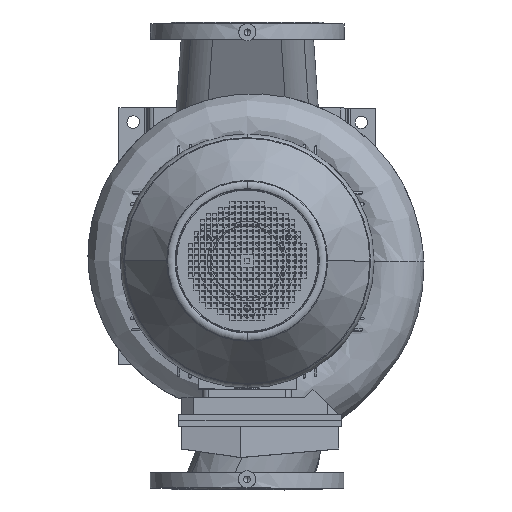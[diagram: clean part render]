
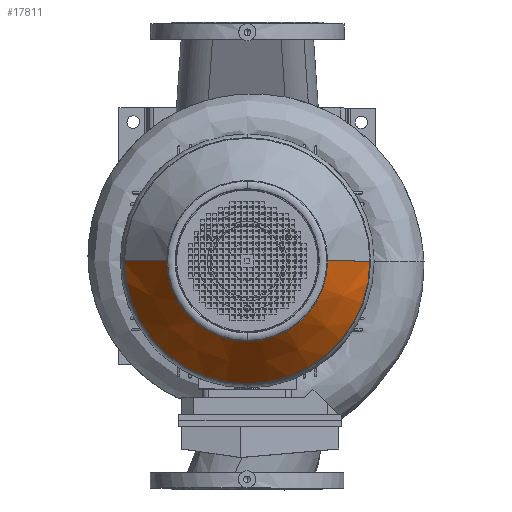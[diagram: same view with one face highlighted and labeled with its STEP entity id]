
A CAD part, top view. The second image highlights one B-rep face of the part: STEP entity #17811.
In plain terms, the highlighted conical face has half-angle 34.804 degrees and reference radius 178.671 mm.
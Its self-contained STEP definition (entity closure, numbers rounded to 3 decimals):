
#17811=ADVANCED_FACE('',(#40277),#40278,.T.);
#20427=EDGE_CURVE('',#44843,#44846,#44847,.T.);
#20429=EDGE_CURVE('',#44849,#44850,#44851,.T.);
#20431=EDGE_CURVE('',#44850,#44853,#44854,.T.);
#20433=EDGE_CURVE('',#44846,#44856,#44857,.T.);
#40277=FACE_OUTER_BOUND('',#85760,.T.);
#40278=CONICAL_SURFACE('',#85761,178.671,0.607);
#44843=VERTEX_POINT('',#90343);
#44846=VERTEX_POINT('',#90347);
#44847=CIRCLE('',#90348,141.0);
#44849=VERTEX_POINT('',#90351);
#44850=VERTEX_POINT('',#90352);
#44851=CIRCLE('',#90353,216.342);
#44853=VERTEX_POINT('',#90356);
#44854=CIRCLE('',#90357,216.342);
#44856=VERTEX_POINT('',#90360);
#44857=CIRCLE('',#90361,141.0);
#85760=EDGE_LOOP('',(#125783,#125784,#125785,#125786,#125787,#125788));
#85761=AXIS2_PLACEMENT_3D('',#125789,#125790,#125791);
#90343=CARTESIAN_POINT('',(228.035,141.0,0.0));
#90347=CARTESIAN_POINT('',(228.035,0.,141.0));
#90348=AXIS2_PLACEMENT_3D('',#138729,#138730,#138731);
#90351=CARTESIAN_POINT('',(119.648,216.342,0.0));
#90352=CARTESIAN_POINT('',(119.648,0.,216.342));
#90353=AXIS2_PLACEMENT_3D('',#138732,#138733,#138734);
#90356=CARTESIAN_POINT('',(119.648,-216.342,0.));
#90357=AXIS2_PLACEMENT_3D('',#138735,#138736,#138737);
#90360=CARTESIAN_POINT('',(228.035,-141.0,0.));
#90361=AXIS2_PLACEMENT_3D('',#138738,#138739,#138740);
#125783=ORIENTED_EDGE('',*,*,#145750,.F.);
#125784=ORIENTED_EDGE('',*,*,#20429,.T.);
#125785=ORIENTED_EDGE('',*,*,#20431,.T.);
#125786=ORIENTED_EDGE('',*,*,#145751,.F.);
#125787=ORIENTED_EDGE('',*,*,#20433,.F.);
#125788=ORIENTED_EDGE('',*,*,#20427,.F.);
#125789=CARTESIAN_POINT('',(173.842,0.0,0.0));
#125790=DIRECTION('',(-1.0,-0.0,-0.0));
#125791=DIRECTION('',(0.0,1.0,0.0));
#138729=CARTESIAN_POINT('',(228.035,0.0,0.0));
#138730=DIRECTION('',(1.0,0.0,0.0));
#138731=DIRECTION('',(0.0,1.0,0.0));
#138732=CARTESIAN_POINT('',(119.648,0.0,0.0));
#138733=DIRECTION('',(1.0,0.0,0.0));
#138734=DIRECTION('',(0.0,1.0,0.0));
#138735=CARTESIAN_POINT('',(119.648,0.0,0.0));
#138736=DIRECTION('',(1.0,0.0,0.0));
#138737=DIRECTION('',(0.0,1.0,0.0));
#138738=CARTESIAN_POINT('',(228.035,0.0,0.0));
#138739=DIRECTION('',(1.0,0.0,0.0));
#138740=DIRECTION('',(0.0,1.0,0.0));
#145750=EDGE_CURVE('',#44849,#44843,#149946,.T.);
#145751=EDGE_CURVE('',#44856,#44853,#149947,.T.);
#149946=LINE('',#156449,#156450);
#149947=LINE('',#156451,#156452);
#156449=CARTESIAN_POINT('',(173.842,178.671,0.));
#156450=VECTOR('',#159345,1.0);
#156451=CARTESIAN_POINT('',(173.842,-178.671,0.));
#156452=VECTOR('',#159346,1.0);
#159345=DIRECTION('',(0.821,-0.571,0.));
#159346=DIRECTION('',(-0.821,-0.571,0.));
